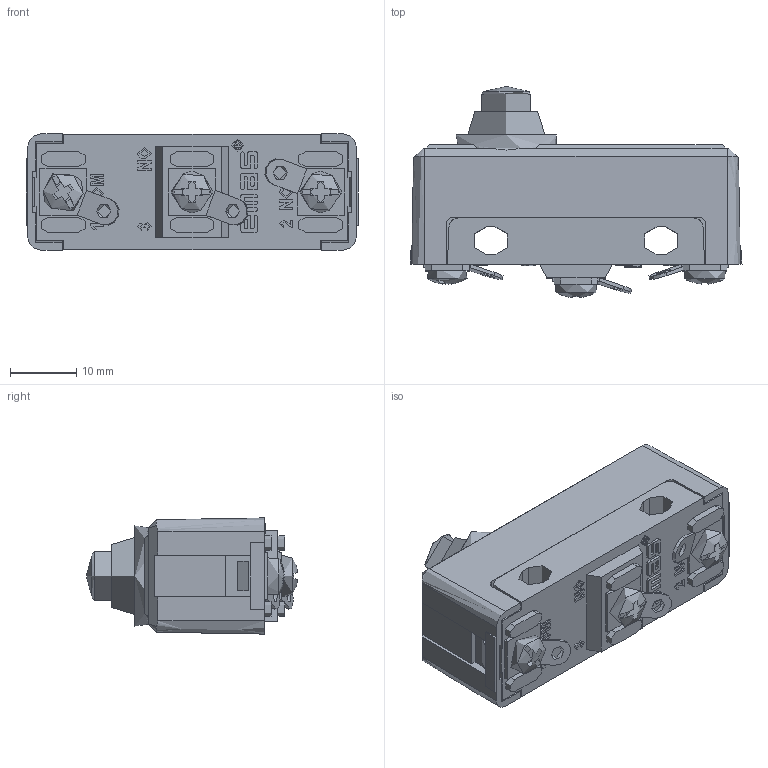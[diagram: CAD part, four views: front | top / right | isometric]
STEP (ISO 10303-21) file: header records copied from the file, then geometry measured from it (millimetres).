
FILE_DESCRIPTION((''),'2; 1');
FILE_NAME('','2026-03-27T16:30:52',(''),(''),'CST STEP Exporter V1.0','Unknown','');
FILE_SCHEMA(('CONFIG_CONTROL_DESIGN'));
Length unit declared in the file: metre
Assembly tree (9 placements, depth 2):
  (unnamed)
    (unnamed)
    (unnamed)
    (unnamed)
    (unnamed)
    (unnamed)
    (unnamed)
    (unnamed)
    (unnamed)
    (unnamed)
Bounding box: 50 x 31.8 x 17.5 mm (x, y, z)
Topology: 0 solids, 46 shells, 440 faces, 1309 edges, 917 vertices
Faces by surface type: plane 286, cylinder 81, extrusion 56, cone 12, sphere 4, torus 1
Full cylindrical faces by diameter (mm): 1.4 x1, 1.8 x1, 2.2 x3, 7.35 x1, 15.1 x1
Entity records: 20317 total; most frequent: CARTESIAN_POINT 4711, ORIENTED_EDGE 2453, DIRECTION 2232, EDGE_CURVE 1356, VECTOR 962, VERTEX_POINT 944, LINE 906, AXIS2_PLACEMENT_3D 635
